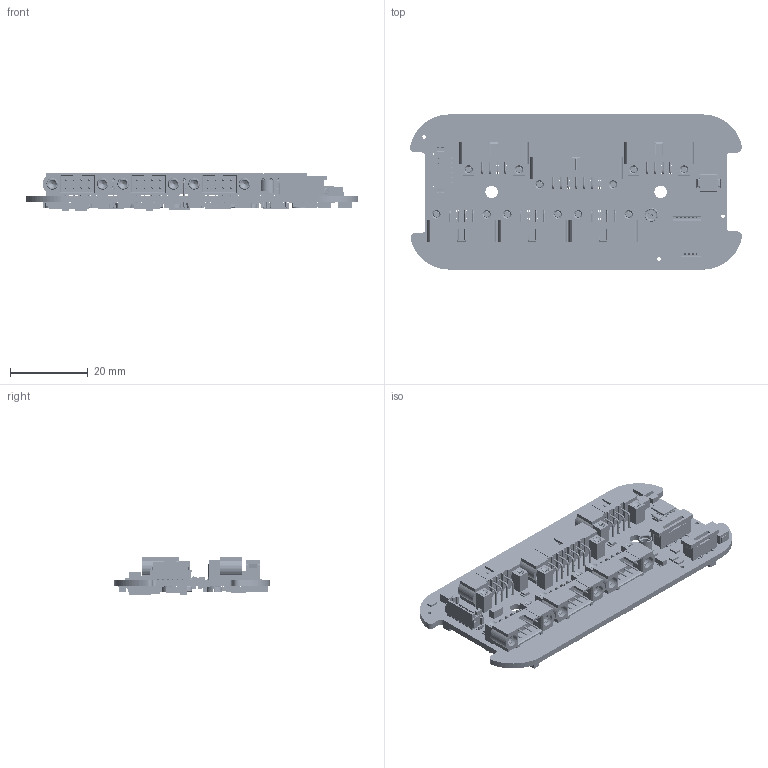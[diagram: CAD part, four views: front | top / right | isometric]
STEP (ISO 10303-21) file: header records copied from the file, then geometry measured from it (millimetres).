
FILE_DESCRIPTION (( 'STEP AP214' ), '1' );
FILE_NAME ('710-01764-A Battery Switch Module.STEP', '2019-02-05T19:32:46', ( '' ), ( '' ), 'SwSTEP 2.0', 'SolidWorks 2014', '' );
FILE_SCHEMA (( 'AUTOMOTIVE_DESIGN' ));
Length unit declared in the file: inch
Products named in the file (2): 710-01764-A Battery Switch Module
Bounding box: 85.64 x 40.02 x 9.81 mm (x, y, z)
Volume: 9199.4 mm3; surface area: 17712 mm2
Topology: 2 solids, 5 shells, 6644 faces, 19794 edges, 12980 vertices
Faces by surface type: plane 3437, cylinder 1412, torus 648, cone 629, bspline 518
Entity records: 319809 total; most frequent: CARTESIAN_POINT 136037, ORIENTED_EDGE 39536, DIRECTION 33121, EDGE_CURVE 19768, VERTEX_POINT 12980, AXIS2_PLACEMENT_3D 11062, VECTOR 10997, LINE 10997
